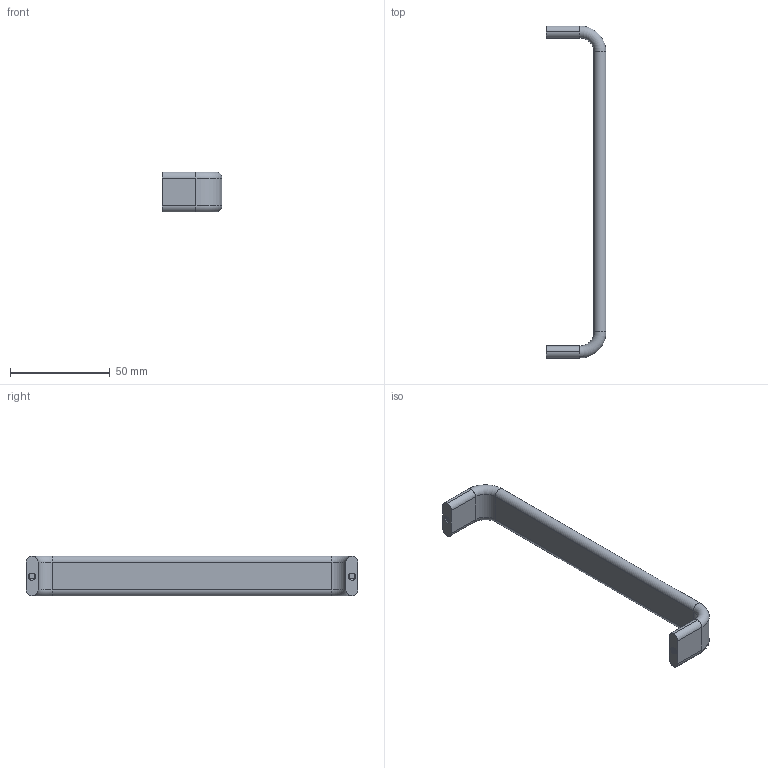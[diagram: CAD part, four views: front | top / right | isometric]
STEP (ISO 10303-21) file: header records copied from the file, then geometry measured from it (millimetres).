
FILE_DESCRIPTION (( 'STEP AP203' ), '1' );
FILE_NAME ('199-CE-HDF-160.STEP', '2015-07-09T09:22:34', ( '' ), ( '' ), 'SwSTEP 2.0', 'SolidWorks 2013', '' );
FILE_SCHEMA (( 'CONFIG_CONTROL_DESIGN' ));
Length unit declared in the file: millimetre
Products named in the file (1): 199-CE-HDF-160
Bounding box: 30 x 166 x 20 mm (x, y, z)
Volume: 22962.7 mm3; surface area: 10031.7 mm2
Topology: 1 solids, 1 shells, 54 faces, 134 edges, 84 vertices
Faces by surface type: cylinder 36, plane 10, torus 4, bspline 4
Entity records: 3001 total; most frequent: CARTESIAN_POINT 1785, ORIENTED_EDGE 268, DIRECTION 214, EDGE_CURVE 134, VERTEX_POINT 84, AXIS2_PLACEMENT_3D 83, EDGE_LOOP 56, ADVANCED_FACE 54
